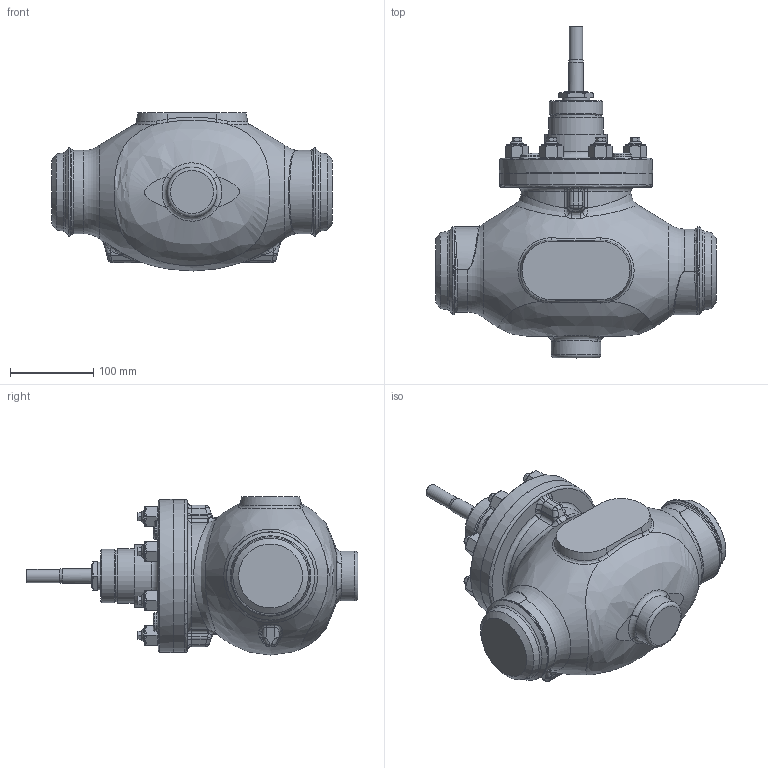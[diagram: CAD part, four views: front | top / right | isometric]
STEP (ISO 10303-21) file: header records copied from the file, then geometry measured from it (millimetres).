
FILE_DESCRIPTION(/* description */ (''),/* implementation_level */ '2;1');
FILE_NAME(/* name */ 'CV3xx_NPS_3_privarovaci.stp',/* time_stamp */ '2014-01-07T06:43:22+01:00',/* author */ (''),/* organization */ ('LDM'),/* preprocessor_version */ 'ST-DEVELOPER v11',/* originating_system */ 'SIEMENS PLM Software NX 7.0',/* authorisation */ '');
FILE_SCHEMA (('CONFIG_CONTROL_DESIGN'));
Length unit declared in the file: millimetre
Products named in the file (1): adamED63ysxa
Bounding box: 337 x 399 x 189.99 mm (x, y, z)
Volume: 7238851.1 mm3; surface area: 295674.8 mm2
Topology: 1 solids, 9 shells, 619 faces, 1404 edges, 818 vertices
Faces by surface type: cone 190, plane 182, cylinder 117, bspline 76, torus 30, sphere 24
Full cylindrical faces by diameter (mm): 16 x25, 18 x1, 22 x4, 24 x16, 27 x1, 33 x1, 60 x1, 61.6 x1, 64 x1, 65 x1, 75 x1, 106 x1, 120 x1, 184 x2
Entity records: 19138 total; most frequent: CARTESIAN_POINT 6990, ORIENTED_EDGE 2450, DIRECTION 2334, EDGE_CURVE 1225, AXIS2_PLACEMENT_3D 1036, EDGE_LOOP 791, VERTEX_POINT 764, ADVANCED_FACE 619
